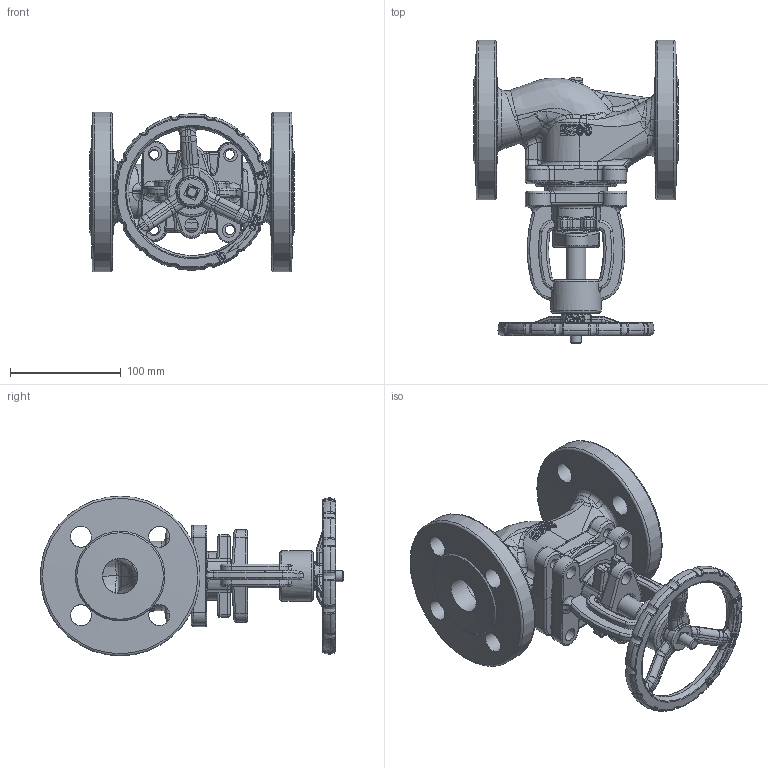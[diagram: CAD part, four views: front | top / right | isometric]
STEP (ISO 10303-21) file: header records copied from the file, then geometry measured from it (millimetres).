
FILE_DESCRIPTION(/* description */ ('STEP AP203'),/* implementation_level */ '2;1');
FILE_NAME(/* name */ '',/* time_stamp */ '2025-02-21T11:03:18+07:00',/* author */ ('Eva'),/* organization */ (''),/* preprocessor_version */ 'ST-DEVELOPER v20',/* originating_system */ 'Autodesk Inventor 2025',/* authorisation */ '');
FILE_SCHEMA (('AUTOMOTIVE_DESIGN { 1 0 10303 214 3 1 1 }'));
Length unit declared in the file: metre
Products named in the file (7): 截止阀32; 截止阀32阀盖; 德标截止阀杆螺母32-40; 德标截止压盖32-40; 德标截止32阀杆; 32; YD.T-610-140.01-Q-32手轮
Assembly tree (6 placements, depth 2):
  截止阀32
    截止阀32阀盖
    德标截止阀杆螺母32-40
    德标截止压盖32-40
    德标截止32阀杆
    32
    YD.T-610-140.01-Q-32手轮
Bounding box: 184.76 x 273.61 x 144 mm (x, y, z)
Volume: 1191874.5 mm3; surface area: 256964.7 mm2
Topology: 7 solids, 7 shells, 1885 faces, 4777 edges, 2883 vertices
Faces by surface type: bspline 895, plane 435, cylinder 305, torus 163, cone 68, sphere 19
Full cylindrical faces by diameter (mm): 2 x1, 8.5 x4, 10 x1, 12 x6, 16 x1, 18 x1, 18.5 x1, 19 x8, 19.07 x1, 20 x1, 28 x1, 29 x1, 30 x3, 32 x2, 43 x1, 45.171 x1, 56 x2, 144 x2
Entity records: 111088 total; most frequent: CARTESIAN_POINT 70721, ORIENTED_EDGE 9466, DIRECTION 6944, EDGE_CURVE 4733, VERTEX_POINT 2883, AXIS2_PLACEMENT_3D 2686, EDGE_LOOP 1966, FACE_OUTER_BOUND 1885
